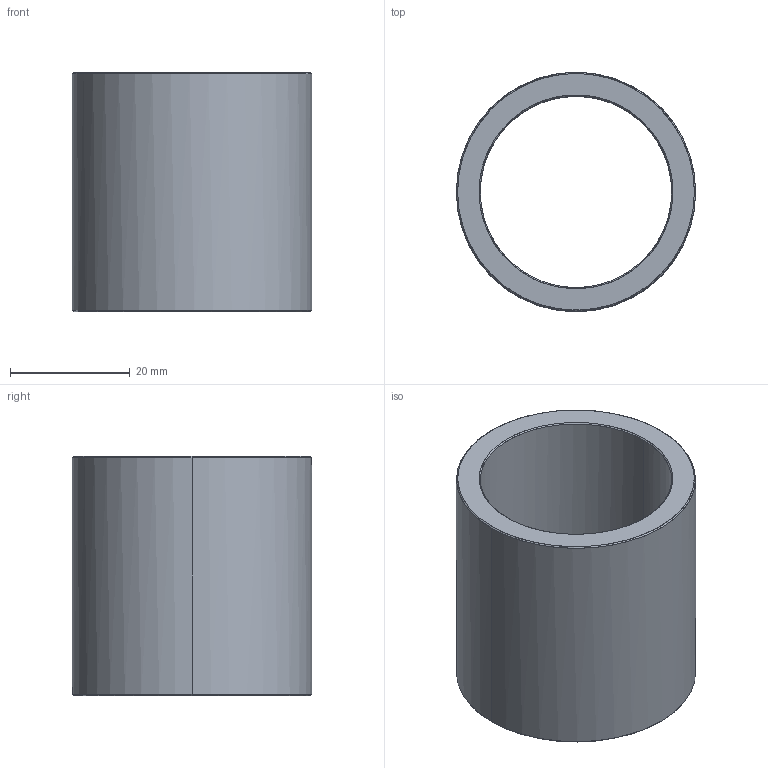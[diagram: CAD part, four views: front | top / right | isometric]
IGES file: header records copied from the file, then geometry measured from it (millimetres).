
Start section: Write IGES format                                    datakit 2008 (c)
Global section: file name: Unknown; native system: DATAKIT Converter; preprocessor: Unknown; author: Unknown; organization: Unknown; date: 950613.180003; units: millimetre
Bounding box: 40 x 39.99 x 40 mm (x, y, z)
Surface area: 9899.6 mm2 (no closed solid volume)
Topology: 0 solids, 0 shells, 14 faces, 56 edges, 56 vertices
Faces by surface type: revolution 12, bspline 2
